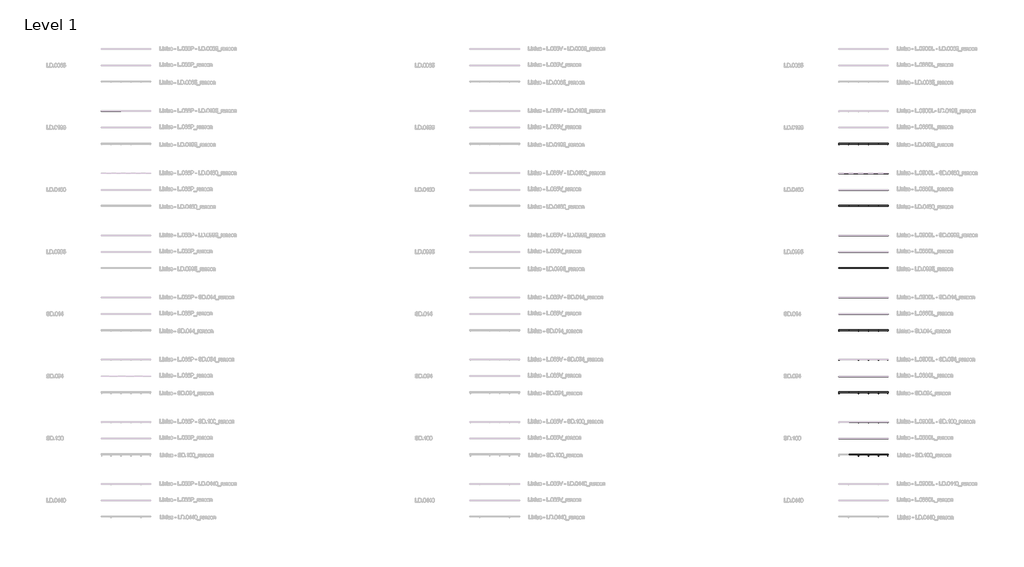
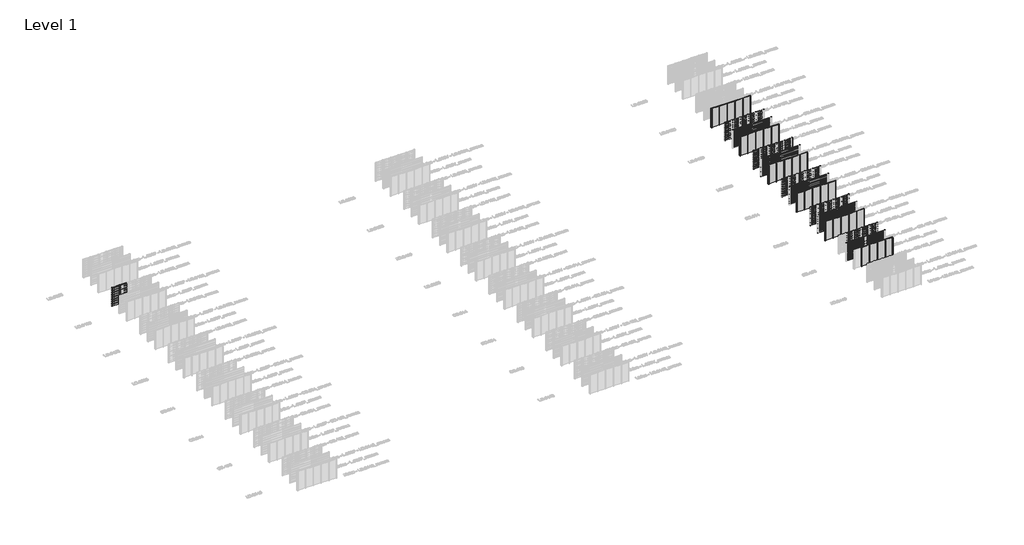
# One storey, part 10 of 540: 66 members, 60 plates.
"""IFC4 building model written with IfcOpenShell, lengths in millimetres."""

from ifc_helpers import new_model, si_unit, origin, origin_with_axes, place, context, project, spatial, polyline, outline, extrude, faceted_brep, transform, mapped, element, save
from components import rectangular_mullion_e1f482b2, rectangular_mullion_21e3ddae, rectangular_mullion_fb497acc, rectangular_mullion_3facce28, rectangular_mullion_6cf2c509, rectangular_mullion_8b77bd57, rectangular_mullion_146f339b, rectangular_mullion_aa1047c5, rectangular_mullion_c2c7736a, rectangular_mullion_35b0a916, rectangular_mullion_bd250e2e, rectangular_mullion_7b49c8f1, rectangular_mullion_2b84ad7e, rectangular_mullion_0fd695e7, rectangular_mullion_9b796d85, rectangular_mullion_dfb17e98, rectangular_mullion_8f153c19, empty_system_panel_empty_aabbdda4

model = new_model("IFC4")

# Units and contexts
model_context = context("Model", 3, world=origin())
ifc_project = project(units=[si_unit("LENGTHUNIT", "METRE", prefix="MILLI")], contexts=[model_context])

# Site, building, storey
site = spatial("IfcSite", under=ifc_project)
building = spatial("IfcBuilding", under=site)
storey = spatial("IfcBuildingStorey", under=building, Name="Level 1", Elevation=0.0)

# Members
placement = place(None, origin())
rectangular_mullion_shape = rectangular_mullion_e1f482b2(model_context)
element("IfcMember", 1, ObjectType="Rectangular Mullion : LD.0195_renson", at=placement, inside=storey, context=model_context, shape_type="MappedRepresentation", body=[
    mapped(rectangular_mullion_shape, transform((135166.6208099, 66483.0540136, 0.0), x_axis=(-1.0, 0.0, 0.0), y_axis=(0.0, 1.0, 0.0), z_axis=(0.0, 0.0, -1.0))),
])
element("IfcMember", 2, ObjectType="Rectangular Mullion : LD.0195_renson", at=placement, inside=storey, context=model_context, shape_type="MappedRepresentation", body=[
    mapped(rectangular_mullion_shape, transform((225366.6208097, 62478.8040136, 0.0), x_axis=(-1.0, 0.0, 0.0), y_axis=(0.0, 1.0, 0.0), z_axis=(0.0, 0.0, -1.0))),
])
element("IfcMember", 3, ObjectType="Rectangular Mullion : LD.0195_renson", at=placement, inside=storey, context=model_context, shape_type="MappedRepresentation", body=[
    mapped(rectangular_mullion_shape, transform((224166.6208099, 62478.8040136, 0.0), x_axis=(-1.0, 0.0, 0.0), y_axis=(0.0, 1.0, 0.0), z_axis=(0.0, 0.0, -1.0))),
])
element("IfcMember", 4, ObjectType="Rectangular Mullion : LD.0195_renson", at=placement, inside=storey, context=model_context, shape_type="MappedRepresentation", body=[
    mapped(rectangular_mullion_shape, transform((226566.6208096, 62478.8040136, 0.0), x_axis=(-1.0, 0.0, 0.0), y_axis=(0.0, 1.0, 0.0), z_axis=(0.0, 0.0, -1.0))),
])
element("IfcMember", 5, ObjectType="Rectangular Mullion : LD.0195_renson", at=placement, inside=storey, context=model_context, shape_type="MappedRepresentation", body=[
    mapped(rectangular_mullion_shape, transform((227766.6208095, 62478.8040136, 0.0), x_axis=(-1.0, 0.0, 0.0), y_axis=(0.0, 1.0, 0.0), z_axis=(0.0, 0.0, -1.0))),
])
rectangular_mullion_2_shape = rectangular_mullion_21e3ddae(model_context)
element("IfcMember", 6, ObjectType="Rectangular Mullion : LD.0460_renson", at=placement, inside=storey, context=model_context, shape_type="MappedRepresentation", body=[
    mapped(rectangular_mullion_2_shape, transform((225366.6208097, 58978.8040136, 0.0), x_axis=(-1.0, 0.0, 0.0), y_axis=(0.0, 1.0, 0.0), z_axis=(0.0, 0.0, -1.0))),
])
element("IfcMember", 7, ObjectType="Rectangular Mullion : LD.0460_renson", at=placement, inside=storey, context=model_context, shape_type="MappedRepresentation", body=[
    mapped(rectangular_mullion_2_shape, transform((224166.6208099, 58978.8040136, 0.0), x_axis=(-1.0, 0.0, 0.0), y_axis=(0.0, 1.0, 0.0), z_axis=(0.0, 0.0, -1.0))),
])
element("IfcMember", 8, ObjectType="Rectangular Mullion : LD.0460_renson", at=placement, inside=storey, context=model_context, shape_type="MappedRepresentation", body=[
    mapped(rectangular_mullion_2_shape, transform((225366.6208097, 54978.8040136, 0.0), x_axis=(-1.0, 0.0, 0.0), y_axis=(0.0, 1.0, 0.0), z_axis=(0.0, 0.0, -1.0))),
])
element("IfcMember", 9, ObjectType="Rectangular Mullion : LD.0460_renson", at=placement, inside=storey, context=model_context, shape_type="MappedRepresentation", body=[
    mapped(rectangular_mullion_2_shape, transform((224166.6208099, 54978.8040136, 0.0), x_axis=(-1.0, 0.0, 0.0), y_axis=(0.0, 1.0, 0.0), z_axis=(0.0, 0.0, -1.0))),
])
element("IfcMember", 10, ObjectType="Rectangular Mullion : LD.0460_renson", at=placement, inside=storey, context=model_context, shape_type="MappedRepresentation", body=[
    mapped(rectangular_mullion_2_shape, transform((226566.6208096, 54978.8040136, 0.0), x_axis=(-1.0, 0.0, 0.0), y_axis=(0.0, 1.0, 0.0), z_axis=(0.0, 0.0, -1.0))),
])
element("IfcMember", 11, ObjectType="Rectangular Mullion : LD.0460_renson", at=placement, inside=storey, context=model_context, shape_type="MappedRepresentation", body=[
    mapped(rectangular_mullion_2_shape, transform((227766.6208095, 54978.8040136, 0.0), x_axis=(-1.0, 0.0, 0.0), y_axis=(0.0, 1.0, 0.0), z_axis=(0.0, 0.0, -1.0))),
])
element("IfcMember", 12, ObjectType="Rectangular Mullion : LD.0460_renson", at=placement, inside=storey, context=model_context, shape_type="MappedRepresentation", body=[
    mapped(rectangular_mullion_2_shape, transform((226566.6208096, 58978.8040136, 0.0), x_axis=(-1.0, 0.0, 0.0), y_axis=(0.0, 1.0, 0.0), z_axis=(0.0, 0.0, -1.0))),
])
element("IfcMember", 13, ObjectType="Rectangular Mullion : LD.0460_renson", at=placement, inside=storey, context=model_context, shape_type="MappedRepresentation", body=[
    mapped(rectangular_mullion_2_shape, transform((227766.6208095, 58978.8040136, 0.0), x_axis=(-1.0, 0.0, 0.0), y_axis=(0.0, 1.0, 0.0), z_axis=(0.0, 0.0, -1.0))),
])
rectangular_mullion_3_shape = rectangular_mullion_fb497acc(model_context)
element("IfcMember", 14, ObjectType="Rectangular Mullion : LD.0995_renson", at=placement, inside=storey, context=model_context, shape_type="MappedRepresentation", body=[
    mapped(rectangular_mullion_3_shape, transform((225366.6208097, 51478.8040136, 0.0), x_axis=(-1.0, 0.0, 0.0), y_axis=(0.0, 1.0, 0.0), z_axis=(0.0, 0.0, -1.0))),
])
element("IfcMember", 15, ObjectType="Rectangular Mullion : LD.0995_renson", at=placement, inside=storey, context=model_context, shape_type="MappedRepresentation", body=[
    mapped(rectangular_mullion_3_shape, transform((224166.6208099, 51478.8040136, 0.0), x_axis=(-1.0, 0.0, 0.0), y_axis=(0.0, 1.0, 0.0), z_axis=(0.0, 0.0, -1.0))),
])
element("IfcMember", 16, ObjectType="Rectangular Mullion : LD.0995_renson", at=placement, inside=storey, context=model_context, shape_type="MappedRepresentation", body=[
    mapped(rectangular_mullion_3_shape, transform((225366.6208097, 47478.8040136, 0.0), x_axis=(-1.0, 0.0, 0.0), y_axis=(0.0, 1.0, 0.0), z_axis=(0.0, 0.0, -1.0))),
])
element("IfcMember", 17, ObjectType="Rectangular Mullion : LD.0995_renson", at=placement, inside=storey, context=model_context, shape_type="MappedRepresentation", body=[
    mapped(rectangular_mullion_3_shape, transform((224166.6208099, 47478.8040136, 0.0), x_axis=(-1.0, 0.0, 0.0), y_axis=(0.0, 1.0, 0.0), z_axis=(0.0, 0.0, -1.0))),
])
element("IfcMember", 18, ObjectType="Rectangular Mullion : LD.0995_renson", at=placement, inside=storey, context=model_context, shape_type="MappedRepresentation", body=[
    mapped(rectangular_mullion_3_shape, transform((226566.6208096, 47478.8040136, 0.0), x_axis=(-1.0, 0.0, 0.0), y_axis=(0.0, 1.0, 0.0), z_axis=(0.0, 0.0, -1.0))),
])
element("IfcMember", 19, ObjectType="Rectangular Mullion : LD.0995_renson", at=placement, inside=storey, context=model_context, shape_type="MappedRepresentation", body=[
    mapped(rectangular_mullion_3_shape, transform((227766.6208095, 47478.8040136, 0.0), x_axis=(-1.0, 0.0, 0.0), y_axis=(0.0, 1.0, 0.0), z_axis=(0.0, 0.0, -1.0))),
])
element("IfcMember", 20, ObjectType="Rectangular Mullion : LD.0995_renson", at=placement, inside=storey, context=model_context, shape_type="MappedRepresentation", body=[
    mapped(rectangular_mullion_3_shape, transform((226566.6208096, 51478.8040136, 0.0), x_axis=(-1.0, 0.0, 0.0), y_axis=(0.0, 1.0, 0.0), z_axis=(0.0, 0.0, -1.0))),
])
element("IfcMember", 21, ObjectType="Rectangular Mullion : LD.0995_renson", at=placement, inside=storey, context=model_context, shape_type="MappedRepresentation", body=[
    mapped(rectangular_mullion_3_shape, transform((227766.6208095, 51478.8040136, 0.0), x_axis=(-1.0, 0.0, 0.0), y_axis=(0.0, 1.0, 0.0), z_axis=(0.0, 0.0, -1.0))),
])
rectangular_mullion_4_shape = rectangular_mullion_3facce28(model_context)
element("IfcMember", 22, ObjectType="Rectangular Mullion : SD.014_renson", at=placement, inside=storey, context=model_context, shape_type="MappedRepresentation", body=[
    mapped(rectangular_mullion_4_shape, transform((225366.6208097, 43978.8040136, 0.0), x_axis=(-1.0, 0.0, 0.0), y_axis=(0.0, 1.0, 0.0), z_axis=(0.0, 0.0, -1.0))),
])
element("IfcMember", 23, ObjectType="Rectangular Mullion : SD.014_renson", at=placement, inside=storey, context=model_context, shape_type="MappedRepresentation", body=[
    mapped(rectangular_mullion_4_shape, transform((224166.6208099, 43978.8040136, 0.0), x_axis=(-1.0, 0.0, 0.0), y_axis=(0.0, 1.0, 0.0), z_axis=(0.0, 0.0, -1.0))),
])
element("IfcMember", 24, ObjectType="Rectangular Mullion : SD.014_renson", at=placement, inside=storey, context=model_context, shape_type="MappedRepresentation", body=[
    mapped(rectangular_mullion_4_shape, transform((225366.6208097, 39978.8040136, 0.0), x_axis=(-1.0, 0.0, 0.0), y_axis=(0.0, 1.0, 0.0), z_axis=(0.0, 0.0, -1.0))),
])
element("IfcMember", 25, ObjectType="Rectangular Mullion : SD.014_renson", at=placement, inside=storey, context=model_context, shape_type="MappedRepresentation", body=[
    mapped(rectangular_mullion_4_shape, transform((224166.6208099, 39978.8040136, 0.0), x_axis=(-1.0, 0.0, 0.0), y_axis=(0.0, 1.0, 0.0), z_axis=(0.0, 0.0, -1.0))),
])
element("IfcMember", 26, ObjectType="Rectangular Mullion : SD.014_renson", at=placement, inside=storey, context=model_context, shape_type="MappedRepresentation", body=[
    mapped(rectangular_mullion_4_shape, transform((226566.6208096, 39978.8040136, 0.0), x_axis=(-1.0, 0.0, 0.0), y_axis=(0.0, 1.0, 0.0), z_axis=(0.0, 0.0, -1.0))),
])
element("IfcMember", 27, ObjectType="Rectangular Mullion : SD.014_renson", at=placement, inside=storey, context=model_context, shape_type="MappedRepresentation", body=[
    mapped(rectangular_mullion_4_shape, transform((227766.6208095, 39978.8040136, 0.0), x_axis=(-1.0, 0.0, 0.0), y_axis=(0.0, 1.0, 0.0), z_axis=(0.0, 0.0, -1.0))),
])
element("IfcMember", 28, ObjectType="Rectangular Mullion : SD.014_renson", at=placement, inside=storey, context=model_context, shape_type="MappedRepresentation", body=[
    mapped(rectangular_mullion_4_shape, transform((226566.6208096, 43978.8040136, 0.0), x_axis=(-1.0, 0.0, 0.0), y_axis=(0.0, 1.0, 0.0), z_axis=(0.0, 0.0, -1.0))),
])
element("IfcMember", 29, ObjectType="Rectangular Mullion : SD.014_renson", at=placement, inside=storey, context=model_context, shape_type="MappedRepresentation", body=[
    mapped(rectangular_mullion_4_shape, transform((227766.6208095, 43978.8040136, 0.0), x_axis=(-1.0, 0.0, 0.0), y_axis=(0.0, 1.0, 0.0), z_axis=(0.0, 0.0, -1.0))),
])
rectangular_mullion_5_shape = rectangular_mullion_6cf2c509(model_context)
element("IfcMember", 30, ObjectType="Rectangular Mullion : SD.054_renson", at=placement, inside=storey, context=model_context, shape_type="MappedRepresentation", body=[
    mapped(rectangular_mullion_5_shape, transform((225366.6208097, 36478.8040136, 0.0), x_axis=(-1.0, 0.0, 0.0), y_axis=(0.0, 1.0, 0.0), z_axis=(0.0, 0.0, -1.0))),
])
element("IfcMember", 31, ObjectType="Rectangular Mullion : SD.054_renson", at=placement, inside=storey, context=model_context, shape_type="MappedRepresentation", body=[
    mapped(rectangular_mullion_5_shape, transform((224166.6208099, 36478.8040136, 0.0), x_axis=(-1.0, 0.0, 0.0), y_axis=(0.0, 1.0, 0.0), z_axis=(0.0, 0.0, -1.0))),
])
element("IfcMember", 32, ObjectType="Rectangular Mullion : SD.054_renson", at=placement, inside=storey, context=model_context, shape_type="MappedRepresentation", body=[
    mapped(rectangular_mullion_5_shape, transform((225366.6208097, 32478.8040136, 0.0), x_axis=(-1.0, 0.0, 0.0), y_axis=(0.0, 1.0, 0.0), z_axis=(0.0, 0.0, -1.0))),
])
element("IfcMember", 33, ObjectType="Rectangular Mullion : SD.054_renson", at=placement, inside=storey, context=model_context, shape_type="MappedRepresentation", body=[
    mapped(rectangular_mullion_5_shape, transform((224166.6208099, 32478.8040136, 0.0), x_axis=(-1.0, 0.0, 0.0), y_axis=(0.0, 1.0, 0.0), z_axis=(0.0, 0.0, -1.0))),
])
element("IfcMember", 34, ObjectType="Rectangular Mullion : SD.054_renson", at=placement, inside=storey, context=model_context, shape_type="MappedRepresentation", body=[
    mapped(rectangular_mullion_5_shape, transform((226566.6208096, 32478.8040136, 0.0), x_axis=(-1.0, 0.0, 0.0), y_axis=(0.0, 1.0, 0.0), z_axis=(0.0, 0.0, -1.0))),
])
element("IfcMember", 35, ObjectType="Rectangular Mullion : SD.054_renson", at=placement, inside=storey, context=model_context, shape_type="MappedRepresentation", body=[
    mapped(rectangular_mullion_5_shape, transform((227766.6208095, 32478.8040136, 0.0), x_axis=(-1.0, 0.0, 0.0), y_axis=(0.0, 1.0, 0.0), z_axis=(0.0, 0.0, -1.0))),
])
element("IfcMember", 36, ObjectType="Rectangular Mullion : SD.054_renson", at=placement, inside=storey, context=model_context, shape_type="MappedRepresentation", body=[
    mapped(rectangular_mullion_5_shape, transform((226566.6208096, 36478.8040136, 0.0), x_axis=(-1.0, 0.0, 0.0), y_axis=(0.0, 1.0, 0.0), z_axis=(0.0, 0.0, -1.0))),
])
element("IfcMember", 37, ObjectType="Rectangular Mullion : SD.054_renson", at=placement, inside=storey, context=model_context, shape_type="MappedRepresentation", body=[
    mapped(rectangular_mullion_5_shape, transform((227766.6208095, 36478.8040136, 0.0), x_axis=(-1.0, 0.0, 0.0), y_axis=(0.0, 1.0, 0.0), z_axis=(0.0, 0.0, -1.0))),
])
rectangular_mullion_6_shape = rectangular_mullion_8b77bd57(model_context)
element("IfcMember", 38, ObjectType="Rectangular Mullion : SD.100_renson", at=placement, inside=storey, context=model_context, shape_type="MappedRepresentation", body=[
    mapped(rectangular_mullion_6_shape, transform((225366.6208097, 28978.8040136, 0.0), x_axis=(-1.0, 0.0, 0.0), y_axis=(0.0, 1.0, 0.0), z_axis=(0.0, 0.0, -1.0))),
])
element("IfcMember", 39, ObjectType="Rectangular Mullion : SD.100_renson", at=placement, inside=storey, context=model_context, shape_type="MappedRepresentation", body=[
    mapped(rectangular_mullion_6_shape, transform((224166.6208099, 28978.8040136, 0.0), x_axis=(-1.0, 0.0, 0.0), y_axis=(0.0, 1.0, 0.0), z_axis=(0.0, 0.0, -1.0))),
])
element("IfcMember", 40, ObjectType="Rectangular Mullion : SD.100_renson", at=placement, inside=storey, context=model_context, shape_type="MappedRepresentation", body=[
    mapped(rectangular_mullion_6_shape, transform((225366.6208097, 24978.8040136, 0.0), x_axis=(-1.0, 0.0, 0.0), y_axis=(0.0, 1.0, 0.0), z_axis=(0.0, 0.0, -1.0))),
])
element("IfcMember", 41, ObjectType="Rectangular Mullion : SD.100_renson", at=placement, inside=storey, context=model_context, shape_type="MappedRepresentation", body=[
    mapped(rectangular_mullion_6_shape, transform((224166.6208099, 24978.8040136, 0.0), x_axis=(-1.0, 0.0, 0.0), y_axis=(0.0, 1.0, 0.0), z_axis=(0.0, 0.0, -1.0))),
])
element("IfcMember", 42, ObjectType="Rectangular Mullion : SD.100_renson", at=placement, inside=storey, context=model_context, shape_type="MappedRepresentation", body=[
    mapped(rectangular_mullion_6_shape, transform((226566.6208096, 24978.8040136, 0.0), x_axis=(-1.0, 0.0, 0.0), y_axis=(0.0, 1.0, 0.0), z_axis=(0.0, 0.0, -1.0))),
])
element("IfcMember", 43, ObjectType="Rectangular Mullion : SD.100_renson", at=placement, inside=storey, context=model_context, shape_type="MappedRepresentation", body=[
    mapped(rectangular_mullion_6_shape, transform((227766.6208095, 24978.8040136, 0.0), x_axis=(-1.0, 0.0, 0.0), y_axis=(0.0, 1.0, 0.0), z_axis=(0.0, 0.0, -1.0))),
])
element("IfcMember", 44, ObjectType="Rectangular Mullion : SD.100_renson", at=placement, inside=storey, context=model_context, shape_type="MappedRepresentation", body=[
    mapped(rectangular_mullion_6_shape, transform((226566.6208096, 28978.8040136, 0.0), x_axis=(-1.0, 0.0, 0.0), y_axis=(0.0, 1.0, 0.0), z_axis=(0.0, 0.0, -1.0))),
])
element("IfcMember", 45, ObjectType="Rectangular Mullion : SD.100_renson", at=placement, inside=storey, context=model_context, shape_type="MappedRepresentation", body=[
    mapped(rectangular_mullion_6_shape, transform((227766.6208095, 28978.8040136, 0.0), x_axis=(-1.0, 0.0, 0.0), y_axis=(0.0, 1.0, 0.0), z_axis=(0.0, 0.0, -1.0))),
])
rectangular_mullion_7_shape = rectangular_mullion_146f339b(model_context)
element("IfcMember", 46, ObjectType="Rectangular Mullion : LD.0195 - left_renson", at=placement, inside=storey, context=model_context, shape_type="MappedRepresentation", body=[
    mapped(rectangular_mullion_7_shape, transform((133966.6208097, 66483.0540136, 0.0), x_axis=(-1.0, 0.0, 0.0), y_axis=(0.0, 1.0, 0.0), z_axis=(0.0, 0.0, -1.0))),
])
element("IfcMember", 47, ObjectType="Rectangular Mullion : LD.0195 - left_renson", at=placement, inside=storey, context=model_context, shape_type="MappedRepresentation", body=[
    mapped(rectangular_mullion_7_shape, transform((222966.6208097, 62478.8040136, 0.0), x_axis=(-1.0, 0.0, 0.0), y_axis=(0.0, 1.0, 0.0), z_axis=(0.0, 0.0, -1.0))),
])
rectangular_mullion_8_shape = rectangular_mullion_aa1047c5(model_context)
element("IfcMember", 48, ObjectType="Rectangular Mullion : LD.0195 - right_renson", at=placement, inside=storey, context=model_context, shape_type="MappedRepresentation", body=[
    mapped(rectangular_mullion_8_shape, transform((228966.6208097, 62478.8040136, 3000.0), x_axis=(1.0, 0.0, 0.0), y_axis=(0.0, 1.0, 0.0), z_axis=(0.0, 0.0, 1.0))),
])
rectangular_mullion_9_shape = rectangular_mullion_c2c7736a(model_context)
element("IfcMember", 49, ObjectType="Rectangular Mullion : LD.0460 - left_renson", at=placement, inside=storey, context=model_context, shape_type="MappedRepresentation", body=[
    mapped(rectangular_mullion_9_shape, transform((222966.6208097, 58978.8040136, 0.0), x_axis=(-1.0, 0.0, 0.0), y_axis=(0.0, 1.0, 0.0), z_axis=(0.0, 0.0, -1.0))),
])
element("IfcMember", 50, ObjectType="Rectangular Mullion : LD.0460 - left_renson", at=placement, inside=storey, context=model_context, shape_type="MappedRepresentation", body=[
    mapped(rectangular_mullion_9_shape, transform((222966.6208097, 54978.8040136, 0.0), x_axis=(-1.0, 0.0, 0.0), y_axis=(0.0, 1.0, 0.0), z_axis=(0.0, 0.0, -1.0))),
])
rectangular_mullion_10_shape = rectangular_mullion_35b0a916(model_context)
element("IfcMember", 51, ObjectType="Rectangular Mullion : LD.0460 - right_renson", at=placement, inside=storey, context=model_context, shape_type="MappedRepresentation", body=[
    mapped(rectangular_mullion_10_shape, transform((228966.6208097, 58978.8040136, 3000.0), x_axis=(1.0, 0.0, 0.0), y_axis=(0.0, 1.0, 0.0), z_axis=(0.0, 0.0, 1.0))),
])
element("IfcMember", 52, ObjectType="Rectangular Mullion : LD.0460 - right_renson", at=placement, inside=storey, context=model_context, shape_type="MappedRepresentation", body=[
    mapped(rectangular_mullion_10_shape, transform((228966.6208097, 54978.8040136, 3000.0), x_axis=(1.0, 0.0, 0.0), y_axis=(0.0, 1.0, 0.0), z_axis=(0.0, 0.0, 1.0))),
])
rectangular_mullion_11_shape = rectangular_mullion_bd250e2e(model_context)
element("IfcMember", 53, ObjectType="Rectangular Mullion : LD.0995 - left_renson", at=placement, inside=storey, context=model_context, shape_type="MappedRepresentation", body=[
    mapped(rectangular_mullion_11_shape, transform((222966.6208097, 51478.8040136, 0.0), x_axis=(-1.0, 0.0, 0.0), y_axis=(0.0, 1.0, 0.0), z_axis=(0.0, 0.0, -1.0))),
])
element("IfcMember", 54, ObjectType="Rectangular Mullion : LD.0995 - left_renson", at=placement, inside=storey, context=model_context, shape_type="MappedRepresentation", body=[
    mapped(rectangular_mullion_11_shape, transform((222966.6208097, 47478.8040136, 0.0), x_axis=(-1.0, 0.0, 0.0), y_axis=(0.0, 1.0, 0.0), z_axis=(0.0, 0.0, -1.0))),
])
rectangular_mullion_12_shape = rectangular_mullion_7b49c8f1(model_context)
element("IfcMember", 55, ObjectType="Rectangular Mullion : LD.0995 - right_renson", at=placement, inside=storey, context=model_context, shape_type="MappedRepresentation", body=[
    mapped(rectangular_mullion_12_shape, transform((228966.6208097, 51478.8040136, 3000.0), x_axis=(1.0, 0.0, 0.0), y_axis=(0.0, 1.0, 0.0), z_axis=(0.0, 0.0, 1.0))),
])
element("IfcMember", 56, ObjectType="Rectangular Mullion : LD.0995 - right_renson", at=placement, inside=storey, context=model_context, shape_type="MappedRepresentation", body=[
    mapped(rectangular_mullion_12_shape, transform((228966.6208097, 47478.8040136, 3000.0), x_axis=(1.0, 0.0, 0.0), y_axis=(0.0, 1.0, 0.0), z_axis=(0.0, 0.0, 1.0))),
])
rectangular_mullion_13_shape = rectangular_mullion_2b84ad7e(model_context)
element("IfcMember", 57, ObjectType="Rectangular Mullion : SD.014 - left_renson", at=placement, inside=storey, context=model_context, shape_type="MappedRepresentation", body=[
    mapped(rectangular_mullion_13_shape, transform((222966.6208097, 43978.8040136, 0.0), x_axis=(-1.0, 0.0, 0.0), y_axis=(0.0, 1.0, 0.0), z_axis=(0.0, 0.0, -1.0))),
])
element("IfcMember", 58, ObjectType="Rectangular Mullion : SD.014 - left_renson", at=placement, inside=storey, context=model_context, shape_type="MappedRepresentation", body=[
    mapped(rectangular_mullion_13_shape, transform((222966.6208097, 39978.8040136, 0.0), x_axis=(-1.0, 0.0, 0.0), y_axis=(0.0, 1.0, 0.0), z_axis=(0.0, 0.0, -1.0))),
])
rectangular_mullion_14_shape = rectangular_mullion_0fd695e7(model_context)
element("IfcMember", 59, ObjectType="Rectangular Mullion : SD.014 - right_renson", at=placement, inside=storey, context=model_context, shape_type="MappedRepresentation", body=[
    mapped(rectangular_mullion_14_shape, transform((228966.6208097, 43978.8040136, 3000.0), x_axis=(1.0, 0.0, 0.0), y_axis=(0.0, 1.0, 0.0), z_axis=(0.0, 0.0, 1.0))),
])
element("IfcMember", 60, ObjectType="Rectangular Mullion : SD.014 - right_renson", at=placement, inside=storey, context=model_context, shape_type="MappedRepresentation", body=[
    mapped(rectangular_mullion_14_shape, transform((228966.6208097, 39978.8040136, 3000.0), x_axis=(1.0, 0.0, 0.0), y_axis=(0.0, 1.0, 0.0), z_axis=(0.0, 0.0, 1.0))),
])
rectangular_mullion_15_shape = rectangular_mullion_9b796d85(model_context)
element("IfcMember", 61, ObjectType="Rectangular Mullion : SD.054 - left_renson", at=placement, inside=storey, context=model_context, shape_type="MappedRepresentation", body=[
    mapped(rectangular_mullion_15_shape, transform((222966.6208097, 36478.8040136, 0.0), x_axis=(-1.0, 0.0, 0.0), y_axis=(0.0, 1.0, 0.0), z_axis=(0.0, 0.0, -1.0))),
])
element("IfcMember", 62, ObjectType="Rectangular Mullion : SD.054 - left_renson", at=placement, inside=storey, context=model_context, shape_type="MappedRepresentation", body=[
    mapped(rectangular_mullion_15_shape, transform((222966.6208097, 32478.8040136, 0.0), x_axis=(-1.0, 0.0, 0.0), y_axis=(0.0, 1.0, 0.0), z_axis=(0.0, 0.0, -1.0))),
])
rectangular_mullion_16_shape = rectangular_mullion_dfb17e98(model_context)
element("IfcMember", 63, ObjectType="Rectangular Mullion : SD.054 - right_renson", at=placement, inside=storey, context=model_context, shape_type="MappedRepresentation", body=[
    mapped(rectangular_mullion_16_shape, transform((228966.6208097, 36478.8040136, 3000.0), x_axis=(1.0, 0.0, 0.0), y_axis=(0.0, 1.0, 0.0), z_axis=(0.0, 0.0, 1.0))),
])
element("IfcMember", 64, ObjectType="Rectangular Mullion : SD.054 - right_renson", at=placement, inside=storey, context=model_context, shape_type="MappedRepresentation", body=[
    mapped(rectangular_mullion_16_shape, transform((228966.6208097, 32478.8040136, 3000.0), x_axis=(1.0, 0.0, 0.0), y_axis=(0.0, 1.0, 0.0), z_axis=(0.0, 0.0, 1.0))),
])
rectangular_mullion_17_shape = rectangular_mullion_8f153c19(model_context)
element("IfcMember", 65, ObjectType="Rectangular Mullion : SD.100 - right_renson", at=placement, inside=storey, context=model_context, shape_type="MappedRepresentation", body=[
    mapped(rectangular_mullion_17_shape, transform((228966.6208097, 28978.8040136, 3000.0), x_axis=(1.0, 0.0, 0.0), y_axis=(0.0, 1.0, 0.0), z_axis=(0.0, 0.0, 1.0))),
])
element("IfcMember", 66, ObjectType="Rectangular Mullion : SD.100 - right_renson", at=placement, inside=storey, context=model_context, shape_type="MappedRepresentation", body=[
    mapped(rectangular_mullion_17_shape, transform((228966.6208097, 24978.8040136, 3000.0), x_axis=(1.0, 0.0, 0.0), y_axis=(0.0, 1.0, 0.0), z_axis=(0.0, 0.0, 1.0))),
])

# Plates
element("IfcPlate", 67, ObjectType="Linius - L.066P_renson", at=placement, inside=storey, context=model_context, shape_type="SweptSolid", body=[
    extrude(outline(polyline([(133966.6208097, 66484.0540136), (135166.6208099, 66484.0540136), (135166.6208099, 66482.0540136), (133966.6208097, 66482.0540136), (133966.6208097, 66484.0540136)])), origin_with_axes(), (0.0, 0.0, 1.0), 3000.0),
])
element("IfcPlate", 68, ObjectType="Linius - L.066P_renson", at=placement, inside=storey, context=model_context, shape_type="SweptSolid", body=[
    extrude(outline(polyline([(135166.6208099, 66484.0540136), (136366.6208097, 66484.0540136), (136366.6208097, 66482.0540136), (135166.6208099, 66482.0540136), (135166.6208099, 66484.0540136)])), origin_with_axes(), (0.0, 0.0, 1.0), 3000.0),
])
element("IfcPlate", 69, ObjectType="Linius - L.066CL_renson", at=placement, inside=storey, context=model_context, shape_type="SweptSolid", body=[
    extrude(outline(polyline([(222966.6208097, 58979.8040136), (224166.6208099, 58979.8040136), (224166.6208099, 58977.8040136), (222966.6208097, 58977.8040136), (222966.6208097, 58979.8040136)])), origin_with_axes(), (0.0, 0.0, 1.0), 3000.0),
])
element("IfcPlate", 70, ObjectType="Linius - L.066CL_renson", at=placement, inside=storey, context=model_context, shape_type="SweptSolid", body=[
    extrude(outline(polyline([(224166.6208099, 58979.8040136), (225366.6208097, 58979.8040136), (225366.6208097, 58977.8040136), (224166.6208099, 58977.8040136), (224166.6208099, 58979.8040136)])), origin_with_axes(), (0.0, 0.0, 1.0), 3000.0),
])
element("IfcPlate", 71, ObjectType="Linius - L.066CL_renson", at=placement, inside=storey, context=model_context, shape_type="SweptSolid", body=[
    extrude(outline(polyline([(227766.6208095, 58979.8040136), (228966.6208097, 58979.8040136), (228966.6208097, 58977.8040136), (227766.6208095, 58977.8040136), (227766.6208095, 58979.8040136)])), origin_with_axes(), (0.0, 0.0, 1.0), 3000.0),
])
element("IfcPlate", 72, ObjectType="Linius - L.066CL_renson", at=placement, inside=storey, context=model_context, shape_type="SweptSolid", body=[
    extrude(outline(polyline([(222966.6208097, 56979.8040136), (228966.6208097, 56979.8040136), (228966.6208097, 56977.8040136), (222966.6208097, 56977.8040136), (222966.6208097, 56979.8040136)])), origin_with_axes(), (0.0, 0.0, 1.0), 3000.0),
])
element("IfcPlate", 73, ObjectType="Linius - L.066CL_renson", at=placement, inside=storey, context=model_context, shape_type="SweptSolid", body=[
    extrude(outline(polyline([(222966.6208097, 51479.8040136), (224166.6208099, 51479.8040136), (224166.6208099, 51477.8040136), (222966.6208097, 51477.8040136), (222966.6208097, 51479.8040136)])), origin_with_axes(), (0.0, 0.0, 1.0), 3000.0),
])
element("IfcPlate", 74, ObjectType="Linius - L.066CL_renson", at=placement, inside=storey, context=model_context, shape_type="SweptSolid", body=[
    extrude(outline(polyline([(224166.6208099, 51479.8040136), (225366.6208097, 51479.8040136), (225366.6208097, 51477.8040136), (224166.6208099, 51477.8040136), (224166.6208099, 51479.8040136)])), origin_with_axes(), (0.0, 0.0, 1.0), 3000.0),
])
element("IfcPlate", 75, ObjectType="Linius - L.066CL_renson", at=placement, inside=storey, context=model_context, shape_type="SweptSolid", body=[
    extrude(outline(polyline([(227766.6208095, 51479.8040136), (228966.6208097, 51479.8040136), (228966.6208097, 51477.8040136), (227766.6208095, 51477.8040136), (227766.6208095, 51479.8040136)])), origin_with_axes(), (0.0, 0.0, 1.0), 3000.0),
])
element("IfcPlate", 76, ObjectType="Linius - L.066CL_renson", at=placement, inside=storey, context=model_context, shape_type="SweptSolid", body=[
    extrude(outline(polyline([(222966.6208097, 49479.8040136), (228966.6208097, 49479.8040136), (228966.6208097, 49477.8040136), (222966.6208097, 49477.8040136), (222966.6208097, 49479.8040136)])), origin_with_axes(), (0.0, 0.0, 1.0), 3000.0),
])
element("IfcPlate", 77, ObjectType="Linius - L.066CL_renson", at=placement, inside=storey, context=model_context, shape_type="SweptSolid", body=[
    extrude(outline(polyline([(222966.6208097, 43979.8040136), (224166.6208099, 43979.8040136), (224166.6208099, 43977.8040136), (222966.6208097, 43977.8040136), (222966.6208097, 43979.8040136)])), origin_with_axes(), (0.0, 0.0, 1.0), 3000.0),
])
element("IfcPlate", 78, ObjectType="Linius - L.066CL_renson", at=placement, inside=storey, context=model_context, shape_type="SweptSolid", body=[
    extrude(outline(polyline([(224166.6208099, 43979.8040136), (225366.6208097, 43979.8040136), (225366.6208097, 43977.8040136), (224166.6208099, 43977.8040136), (224166.6208099, 43979.8040136)])), origin_with_axes(), (0.0, 0.0, 1.0), 3000.0),
])
element("IfcPlate", 79, ObjectType="Linius - L.066CL_renson", at=placement, inside=storey, context=model_context, shape_type="SweptSolid", body=[
    extrude(outline(polyline([(227766.6208095, 43979.8040136), (228966.6208097, 43979.8040136), (228966.6208097, 43977.8040136), (227766.6208095, 43977.8040136), (227766.6208095, 43979.8040136)])), origin_with_axes(), (0.0, 0.0, 1.0), 3000.0),
])
element("IfcPlate", 80, ObjectType="Linius - L.066CL_renson", at=placement, inside=storey, context=model_context, shape_type="SweptSolid", body=[
    extrude(outline(polyline([(222966.6208097, 41979.8040136), (228966.6208097, 41979.8040136), (228966.6208097, 41977.8040136), (222966.6208097, 41977.8040136), (222966.6208097, 41979.8040136)])), origin_with_axes(), (0.0, 0.0, 1.0), 3000.0),
])
element("IfcPlate", 81, ObjectType="Linius - L.066CL_renson", at=placement, inside=storey, context=model_context, shape_type="SweptSolid", body=[
    extrude(outline(polyline([(222966.6208097, 36479.8040136), (224166.6208099, 36479.8040136), (224166.6208099, 36477.8040136), (222966.6208097, 36477.8040136), (222966.6208097, 36479.8040136)])), origin_with_axes(), (0.0, 0.0, 1.0), 3000.0),
])
element("IfcPlate", 82, ObjectType="Linius - L.066CL_renson", at=placement, inside=storey, context=model_context, shape_type="SweptSolid", body=[
    extrude(outline(polyline([(224166.6208099, 36479.8040136), (225366.6208097, 36479.8040136), (225366.6208097, 36477.8040136), (224166.6208099, 36477.8040136), (224166.6208099, 36479.8040136)])), origin_with_axes(), (0.0, 0.0, 1.0), 3000.0),
])
element("IfcPlate", 83, ObjectType="Linius - L.066CL_renson", at=placement, inside=storey, context=model_context, shape_type="SweptSolid", body=[
    extrude(outline(polyline([(227766.6208095, 36479.8040136), (228966.6208097, 36479.8040136), (228966.6208097, 36477.8040136), (227766.6208095, 36477.8040136), (227766.6208095, 36479.8040136)])), origin_with_axes(), (0.0, 0.0, 1.0), 3000.0),
])
element("IfcPlate", 84, ObjectType="Linius - L.066CL_renson", at=placement, inside=storey, context=model_context, shape_type="SweptSolid", body=[
    extrude(outline(polyline([(222966.6208097, 34479.8040136), (228966.6208097, 34479.8040136), (228966.6208097, 34477.8040136), (222966.6208097, 34477.8040136), (222966.6208097, 34479.8040136)])), origin_with_axes(), (0.0, 0.0, 1.0), 3000.0),
])
element("IfcPlate", 85, ObjectType="Linius - L.066CL_renson", at=placement, inside=storey, context=model_context, shape_type="SweptSolid", body=[
    extrude(outline(polyline([(224166.6208099, 28979.8040136), (225366.6208097, 28979.8040136), (225366.6208097, 28977.8040136), (224166.6208099, 28977.8040136), (224166.6208099, 28979.8040136)])), origin_with_axes(), (0.0, 0.0, 1.0), 3000.0),
])
element("IfcPlate", 86, ObjectType="Linius - L.066CL_renson", at=placement, inside=storey, context=model_context, shape_type="SweptSolid", body=[
    extrude(outline(polyline([(227766.6208095, 28979.8040136), (228966.6208097, 28979.8040136), (228966.6208097, 28977.8040136), (227766.6208095, 28977.8040136), (227766.6208095, 28979.8040136)])), origin_with_axes(), (0.0, 0.0, 1.0), 3000.0),
])
element("IfcPlate", 87, ObjectType="Linius - L.066CL_renson", at=placement, inside=storey, context=model_context, shape_type="SweptSolid", body=[
    extrude(outline(polyline([(222966.6208097, 26979.8040136), (228966.6208097, 26979.8040136), (228966.6208097, 26977.8040136), (222966.6208097, 26977.8040136), (222966.6208097, 26979.8040136)])), origin_with_axes(), (0.0, 0.0, 1.0), 3000.0),
])
element("IfcPlate", 88, ObjectType="Linius - L.066CL_renson", at=placement, inside=storey, context=model_context, shape_type="SweptSolid", body=[
    extrude(outline(polyline([(225366.6208097, 58979.8040136), (226566.6208096, 58979.8040136), (226566.6208096, 58977.8040136), (225366.6208097, 58977.8040136), (225366.6208097, 58979.8040136)])), origin_with_axes(), (0.0, 0.0, 1.0), 3000.0),
])
element("IfcPlate", 89, ObjectType="Linius - L.066CL_renson", at=placement, inside=storey, context=model_context, shape_type="SweptSolid", body=[
    extrude(outline(polyline([(226566.6208096, 58979.8040136), (227766.6208095, 58979.8040136), (227766.6208095, 58977.8040136), (226566.6208096, 58977.8040136), (226566.6208096, 58979.8040136)])), origin_with_axes(), (0.0, 0.0, 1.0), 3000.0),
])
element("IfcPlate", 90, ObjectType="Linius - L.066CL_renson", at=placement, inside=storey, context=model_context, shape_type="SweptSolid", body=[
    extrude(outline(polyline([(225366.6208097, 51479.8040136), (226566.6208096, 51479.8040136), (226566.6208096, 51477.8040136), (225366.6208097, 51477.8040136), (225366.6208097, 51479.8040136)])), origin_with_axes(), (0.0, 0.0, 1.0), 3000.0),
])
element("IfcPlate", 91, at=placement, inside=storey, context=model_context, shape_type="Brep", body=[
    faceted_brep([(227766.6208095, 51479.8040136, 0.0), (226566.6208096, 51479.8040136, 0.0), (226566.6208096, 51479.8040136, 3000.0), (227766.6208095, 51479.8040136, 3000.0), (227766.6208095, 51477.8040136, 0.0), (227766.6208095, 51477.8040136, 3000.0), (226566.6208096, 51477.8040136, 3000.0), (226566.6208096, 51477.8040136, 0.0)], [[[0, 1, 2, 3]], [[4, 5, 6, 7]], [[1, 0, 4, 7]], [[2, 1, 7, 6]], [[3, 2, 6, 5]], [[0, 3, 5, 4]]]),
])
element("IfcPlate", 92, at=placement, inside=storey, context=model_context, shape_type="Brep", body=[
    faceted_brep([(226566.6208096, 43979.8040136, 0.0), (225366.6208097, 43979.8040136, 0.0), (225366.6208097, 43979.8040136, 3000.0), (226566.6208096, 43979.8040136, 3000.0), (226566.6208096, 43977.8040136, 0.0), (226566.6208096, 43977.8040136, 3000.0), (225366.6208097, 43977.8040136, 3000.0), (225366.6208097, 43977.8040136, 0.0)], [[[0, 1, 2, 3]], [[4, 5, 6, 7]], [[1, 0, 4, 7]], [[2, 1, 7, 6]], [[3, 2, 6, 5]], [[0, 3, 5, 4]]]),
])
element("IfcPlate", 93, at=placement, inside=storey, context=model_context, shape_type="Brep", body=[
    faceted_brep([(227766.6208095, 43979.8040136, 0.0), (226566.6208096, 43979.8040136, 0.0), (226566.6208096, 43979.8040136, 3000.0), (227766.6208095, 43979.8040136, 3000.0), (227766.6208095, 43977.8040136, 0.0), (227766.6208095, 43977.8040136, 3000.0), (226566.6208096, 43977.8040136, 3000.0), (226566.6208096, 43977.8040136, 0.0)], [[[0, 1, 2, 3]], [[4, 5, 6, 7]], [[1, 0, 4, 7]], [[2, 1, 7, 6]], [[3, 2, 6, 5]], [[0, 3, 5, 4]]]),
])
element("IfcPlate", 94, at=placement, inside=storey, context=model_context, shape_type="Brep", body=[
    faceted_brep([(226566.6208096, 36479.8040136, 0.0), (225366.6208097, 36479.8040136, 0.0), (225366.6208097, 36479.8040136, 3000.0), (226566.6208096, 36479.8040136, 3000.0), (226566.6208096, 36477.8040136, 0.0), (226566.6208096, 36477.8040136, 3000.0), (225366.6208097, 36477.8040136, 3000.0), (225366.6208097, 36477.8040136, 0.0)], [[[0, 1, 2, 3]], [[4, 5, 6, 7]], [[1, 0, 4, 7]], [[2, 1, 7, 6]], [[3, 2, 6, 5]], [[0, 3, 5, 4]]]),
])
element("IfcPlate", 95, at=placement, inside=storey, context=model_context, shape_type="Brep", body=[
    faceted_brep([(227766.6208095, 36479.8040136, 0.0), (226566.6208096, 36479.8040136, 0.0), (226566.6208096, 36479.8040136, 3000.0), (227766.6208095, 36479.8040136, 3000.0), (227766.6208095, 36477.8040136, 0.0), (227766.6208095, 36477.8040136, 3000.0), (226566.6208096, 36477.8040136, 3000.0), (226566.6208096, 36477.8040136, 0.0)], [[[0, 1, 2, 3]], [[4, 5, 6, 7]], [[1, 0, 4, 7]], [[2, 1, 7, 6]], [[3, 2, 6, 5]], [[0, 3, 5, 4]]]),
])
element("IfcPlate", 96, at=placement, inside=storey, context=model_context, shape_type="Brep", body=[
    faceted_brep([(226566.6208096, 28979.8040136, 0.0), (225366.6208097, 28979.8040136, 0.0), (225366.6208097, 28979.8040136, 3000.0), (226566.6208096, 28979.8040136, 3000.0), (226566.6208096, 28977.8040136, 0.0), (226566.6208096, 28977.8040136, 3000.0), (225366.6208097, 28977.8040136, 3000.0), (225366.6208097, 28977.8040136, 0.0)], [[[0, 1, 2, 3]], [[4, 5, 6, 7]], [[1, 0, 4, 7]], [[2, 1, 7, 6]], [[3, 2, 6, 5]], [[0, 3, 5, 4]]]),
])
element("IfcPlate", 97, at=placement, inside=storey, context=model_context, shape_type="Brep", body=[
    faceted_brep([(227766.6208095, 28979.8040136, 0.0), (226566.6208096, 28979.8040136, 0.0), (226566.6208096, 28979.8040136, 3000.0), (227766.6208095, 28979.8040136, 3000.0), (227766.6208095, 28977.8040136, 0.0), (227766.6208095, 28977.8040136, 3000.0), (226566.6208096, 28977.8040136, 3000.0), (226566.6208096, 28977.8040136, 0.0)], [[[0, 1, 2, 3]], [[4, 5, 6, 7]], [[1, 0, 4, 7]], [[2, 1, 7, 6]], [[3, 2, 6, 5]], [[0, 3, 5, 4]]]),
])
empty_system_panel_empty_shape = empty_system_panel_empty_aabbdda4(model_context)
element("IfcPlate", 98, ObjectType="Empty System Panel : Empty", at=placement, inside=storey, context=model_context, shape_type="MappedRepresentation", body=[
    mapped(empty_system_panel_empty_shape, transform((228366.6208096, 62478.8040136, 0.0), x_axis=(-1.0, 0.0, 0.0), y_axis=(0.0, -1.0, 0.0), z_axis=(0.0, 0.0, 1.0))),
])
element("IfcPlate", 99, ObjectType="Empty System Panel : Empty", at=placement, inside=storey, context=model_context, shape_type="MappedRepresentation", body=[
    mapped(empty_system_panel_empty_shape, transform((228366.6208096, 54978.8040136, 0.0), x_axis=(-1.0, 0.0, 0.0), y_axis=(0.0, -1.0, 0.0), z_axis=(0.0, 0.0, 1.0))),
])
element("IfcPlate", 100, ObjectType="Empty System Panel : Empty", at=placement, inside=storey, context=model_context, shape_type="MappedRepresentation", body=[
    mapped(empty_system_panel_empty_shape, transform((228366.6208096, 47478.8040136, 0.0), x_axis=(-1.0, 0.0, 0.0), y_axis=(0.0, -1.0, 0.0), z_axis=(0.0, 0.0, 1.0))),
])
element("IfcPlate", 101, ObjectType="Empty System Panel : Empty", at=placement, inside=storey, context=model_context, shape_type="MappedRepresentation", body=[
    mapped(empty_system_panel_empty_shape, transform((228366.6208096, 39978.8040136, 0.0), x_axis=(-1.0, 0.0, 0.0), y_axis=(0.0, -1.0, 0.0), z_axis=(0.0, 0.0, 1.0))),
])
element("IfcPlate", 102, ObjectType="Empty System Panel : Empty", at=placement, inside=storey, context=model_context, shape_type="MappedRepresentation", body=[
    mapped(empty_system_panel_empty_shape, transform((228366.6208096, 32478.8040136, 0.0), x_axis=(-1.0, 0.0, 0.0), y_axis=(0.0, -1.0, 0.0), z_axis=(0.0, 0.0, 1.0))),
])
element("IfcPlate", 103, ObjectType="Empty System Panel : Empty", at=placement, inside=storey, context=model_context, shape_type="MappedRepresentation", body=[
    mapped(empty_system_panel_empty_shape, transform((228366.6208096, 24978.8040136, 0.0), x_axis=(-1.0, 0.0, 0.0), y_axis=(0.0, -1.0, 0.0), z_axis=(0.0, 0.0, 1.0))),
])
element("IfcPlate", 104, ObjectType="Empty System Panel : Empty", at=placement, inside=storey, context=model_context, shape_type="MappedRepresentation", body=[
    mapped(empty_system_panel_empty_shape, transform((224766.6208098, 62478.8040136, 0.0), x_axis=(-1.0, 0.0, 0.0), y_axis=(0.0, -1.0, 0.0), z_axis=(0.0, 0.0, 1.0))),
])
element("IfcPlate", 105, ObjectType="Empty System Panel : Empty", at=placement, inside=storey, context=model_context, shape_type="MappedRepresentation", body=[
    mapped(empty_system_panel_empty_shape, transform((223566.6208098, 62478.8040136, 0.0), x_axis=(-1.0, 0.0, 0.0), y_axis=(0.0, -1.0, 0.0), z_axis=(0.0, 0.0, 1.0))),
])
element("IfcPlate", 106, ObjectType="Empty System Panel : Empty", at=placement, inside=storey, context=model_context, shape_type="MappedRepresentation", body=[
    mapped(empty_system_panel_empty_shape, transform((224766.6208098, 54978.8040136, 0.0), x_axis=(-1.0, 0.0, 0.0), y_axis=(0.0, -1.0, 0.0), z_axis=(0.0, 0.0, 1.0))),
])
element("IfcPlate", 107, ObjectType="Empty System Panel : Empty", at=placement, inside=storey, context=model_context, shape_type="MappedRepresentation", body=[
    mapped(empty_system_panel_empty_shape, transform((223566.6208098, 54978.8040136, 0.0), x_axis=(-1.0, 0.0, 0.0), y_axis=(0.0, -1.0, 0.0), z_axis=(0.0, 0.0, 1.0))),
])
element("IfcPlate", 108, ObjectType="Empty System Panel : Empty", at=placement, inside=storey, context=model_context, shape_type="MappedRepresentation", body=[
    mapped(empty_system_panel_empty_shape, transform((224766.6208098, 47478.8040136, 0.0), x_axis=(-1.0, 0.0, 0.0), y_axis=(0.0, -1.0, 0.0), z_axis=(0.0, 0.0, 1.0))),
])
element("IfcPlate", 109, ObjectType="Empty System Panel : Empty", at=placement, inside=storey, context=model_context, shape_type="MappedRepresentation", body=[
    mapped(empty_system_panel_empty_shape, transform((223566.6208098, 47478.8040136, 0.0), x_axis=(-1.0, 0.0, 0.0), y_axis=(0.0, -1.0, 0.0), z_axis=(0.0, 0.0, 1.0))),
])
element("IfcPlate", 110, ObjectType="Empty System Panel : Empty", at=placement, inside=storey, context=model_context, shape_type="MappedRepresentation", body=[
    mapped(empty_system_panel_empty_shape, transform((224766.6208098, 39978.8040136, 0.0), x_axis=(-1.0, 0.0, 0.0), y_axis=(0.0, -1.0, 0.0), z_axis=(0.0, 0.0, 1.0))),
])
element("IfcPlate", 111, ObjectType="Empty System Panel : Empty", at=placement, inside=storey, context=model_context, shape_type="MappedRepresentation", body=[
    mapped(empty_system_panel_empty_shape, transform((223566.6208098, 39978.8040136, 0.0), x_axis=(-1.0, 0.0, 0.0), y_axis=(0.0, -1.0, 0.0), z_axis=(0.0, 0.0, 1.0))),
])
element("IfcPlate", 112, ObjectType="Empty System Panel : Empty", at=placement, inside=storey, context=model_context, shape_type="MappedRepresentation", body=[
    mapped(empty_system_panel_empty_shape, transform((224766.6208098, 32478.8040136, 0.0), x_axis=(-1.0, 0.0, 0.0), y_axis=(0.0, -1.0, 0.0), z_axis=(0.0, 0.0, 1.0))),
])
element("IfcPlate", 113, ObjectType="Empty System Panel : Empty", at=placement, inside=storey, context=model_context, shape_type="MappedRepresentation", body=[
    mapped(empty_system_panel_empty_shape, transform((223566.6208098, 32478.8040136, 0.0), x_axis=(-1.0, 0.0, 0.0), y_axis=(0.0, -1.0, 0.0), z_axis=(0.0, 0.0, 1.0))),
])
element("IfcPlate", 114, ObjectType="Empty System Panel : Empty", at=placement, inside=storey, context=model_context, shape_type="MappedRepresentation", body=[
    mapped(empty_system_panel_empty_shape, transform((224766.6208098, 24978.8040136, 0.0), x_axis=(-1.0, 0.0, 0.0), y_axis=(0.0, -1.0, 0.0), z_axis=(0.0, 0.0, 1.0))),
])
element("IfcPlate", 115, ObjectType="Empty System Panel : Empty", at=placement, inside=storey, context=model_context, shape_type="MappedRepresentation", body=[
    mapped(empty_system_panel_empty_shape, transform((225966.6208097, 62478.8040136, 0.0), x_axis=(-1.0, 0.0, 0.0), y_axis=(0.0, -1.0, 0.0), z_axis=(0.0, 0.0, 1.0))),
])
element("IfcPlate", 116, ObjectType="Empty System Panel : Empty", at=placement, inside=storey, context=model_context, shape_type="MappedRepresentation", body=[
    mapped(empty_system_panel_empty_shape, transform((227166.6208096, 62478.8040136, 0.0), x_axis=(-1.0, 0.0, 0.0), y_axis=(0.0, -1.0, 0.0), z_axis=(0.0, 0.0, 1.0))),
])
element("IfcPlate", 117, ObjectType="Empty System Panel : Empty", at=placement, inside=storey, context=model_context, shape_type="MappedRepresentation", body=[
    mapped(empty_system_panel_empty_shape, transform((225966.6208097, 54978.8040136, 0.0), x_axis=(-1.0, 0.0, 0.0), y_axis=(0.0, -1.0, 0.0), z_axis=(0.0, 0.0, 1.0))),
])
element("IfcPlate", 118, ObjectType="Empty System Panel : Empty", at=placement, inside=storey, context=model_context, shape_type="MappedRepresentation", body=[
    mapped(empty_system_panel_empty_shape, transform((227166.6208096, 54978.8040136, 0.0), x_axis=(-1.0, 0.0, 0.0), y_axis=(0.0, -1.0, 0.0), z_axis=(0.0, 0.0, 1.0))),
])
element("IfcPlate", 119, ObjectType="Empty System Panel : Empty", at=placement, inside=storey, context=model_context, shape_type="MappedRepresentation", body=[
    mapped(empty_system_panel_empty_shape, transform((225966.6208097, 47478.8040136, 0.0), x_axis=(-1.0, 0.0, 0.0), y_axis=(0.0, -1.0, 0.0), z_axis=(0.0, 0.0, 1.0))),
])
element("IfcPlate", 120, ObjectType="Empty System Panel : Empty", at=placement, inside=storey, context=model_context, shape_type="MappedRepresentation", body=[
    mapped(empty_system_panel_empty_shape, transform((227166.6208096, 47478.8040136, 0.0), x_axis=(-1.0, 0.0, 0.0), y_axis=(0.0, -1.0, 0.0), z_axis=(0.0, 0.0, 1.0))),
])
element("IfcPlate", 121, ObjectType="Empty System Panel : Empty", at=placement, inside=storey, context=model_context, shape_type="MappedRepresentation", body=[
    mapped(empty_system_panel_empty_shape, transform((225966.6208097, 39978.8040136, 0.0), x_axis=(-1.0, 0.0, 0.0), y_axis=(0.0, -1.0, 0.0), z_axis=(0.0, 0.0, 1.0))),
])
element("IfcPlate", 122, ObjectType="Empty System Panel : Empty", at=placement, inside=storey, context=model_context, shape_type="MappedRepresentation", body=[
    mapped(empty_system_panel_empty_shape, transform((227166.6208096, 39978.8040136, 0.0), x_axis=(-1.0, 0.0, 0.0), y_axis=(0.0, -1.0, 0.0), z_axis=(0.0, 0.0, 1.0))),
])
element("IfcPlate", 123, ObjectType="Empty System Panel : Empty", at=placement, inside=storey, context=model_context, shape_type="MappedRepresentation", body=[
    mapped(empty_system_panel_empty_shape, transform((225966.6208097, 32478.8040136, 0.0), x_axis=(-1.0, 0.0, 0.0), y_axis=(0.0, -1.0, 0.0), z_axis=(0.0, 0.0, 1.0))),
])
element("IfcPlate", 124, ObjectType="Empty System Panel : Empty", at=placement, inside=storey, context=model_context, shape_type="MappedRepresentation", body=[
    mapped(empty_system_panel_empty_shape, transform((227166.6208096, 32478.8040136, 0.0), x_axis=(-1.0, 0.0, 0.0), y_axis=(0.0, -1.0, 0.0), z_axis=(0.0, 0.0, 1.0))),
])
element("IfcPlate", 125, ObjectType="Empty System Panel : Empty", at=placement, inside=storey, context=model_context, shape_type="MappedRepresentation", body=[
    mapped(empty_system_panel_empty_shape, transform((225966.6208097, 24978.8040136, 0.0), x_axis=(-1.0, 0.0, 0.0), y_axis=(0.0, -1.0, 0.0), z_axis=(0.0, 0.0, 1.0))),
])
element("IfcPlate", 126, ObjectType="Empty System Panel : Empty", at=placement, inside=storey, context=model_context, shape_type="MappedRepresentation", body=[
    mapped(empty_system_panel_empty_shape, transform((227166.6208096, 24978.8040136, 0.0), x_axis=(-1.0, 0.0, 0.0), y_axis=(0.0, -1.0, 0.0), z_axis=(0.0, 0.0, 1.0))),
])

save(model, "model.ifc")
